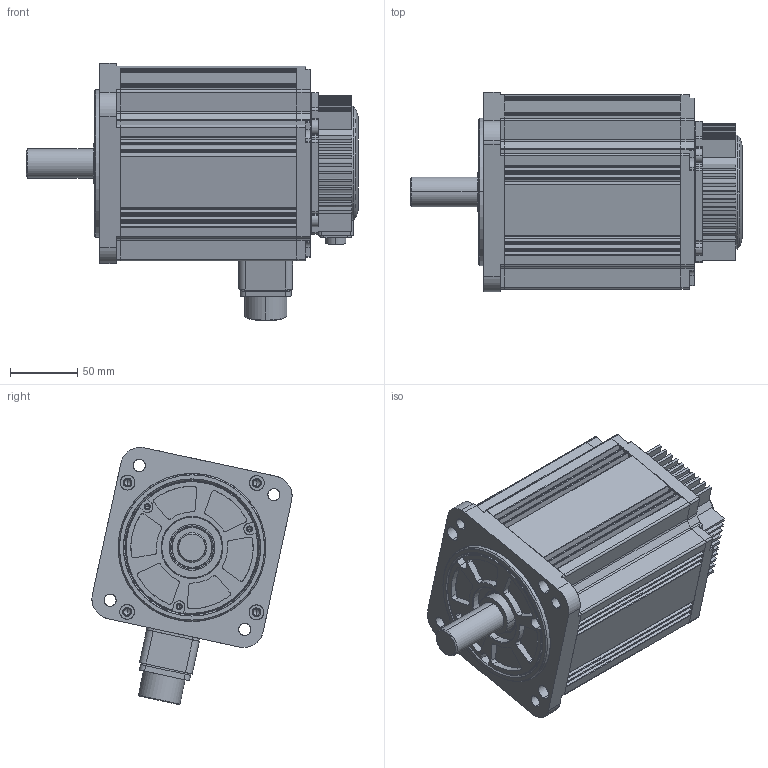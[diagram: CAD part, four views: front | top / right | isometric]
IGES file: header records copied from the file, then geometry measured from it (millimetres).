
Start section: SolidWorks IGES file using analytic representation for surfaces
Global section: file name: Z:\Products\Servo\Servo Motor\EMG-20-B22\UMM-0020EA-B2 UMM-0020CA-B2 CAD Files\UMM-0020EA-B2 UMM-0020CA-B2.IGS; native system: SolidWorks 2017; preprocessor: SolidWorks 2017; author: laorb; date: 190418.094604; units: millimetre
Bounding box: 247 x 148.91 x 191.37 mm (x, y, z)
Surface area: 373447.4 mm2 (no closed solid volume)
Topology: 0 solids, 0 shells, 1436 faces, 22150 edges, 22040 vertices
Faces by surface type: revolution 770, bspline 666
